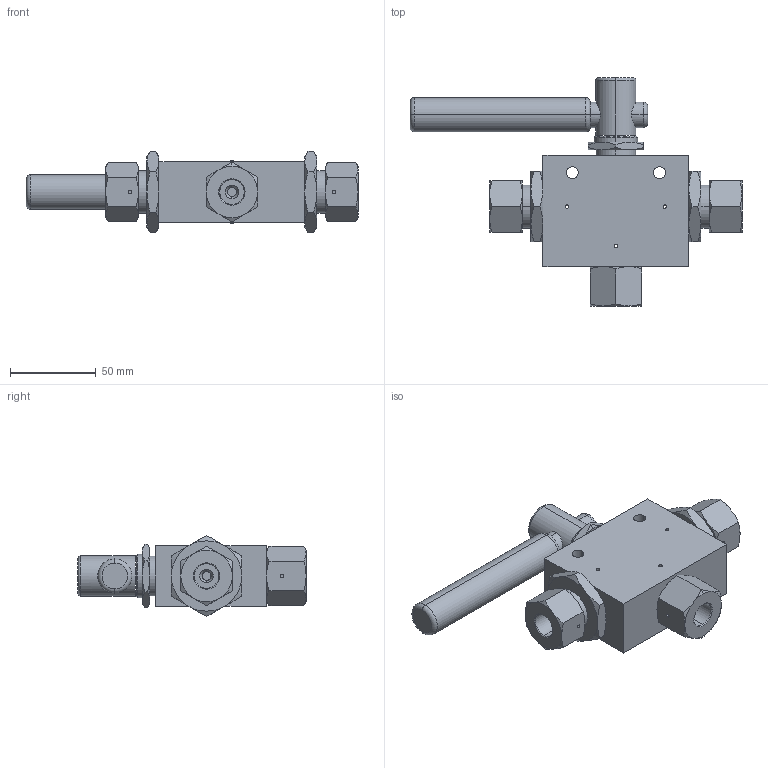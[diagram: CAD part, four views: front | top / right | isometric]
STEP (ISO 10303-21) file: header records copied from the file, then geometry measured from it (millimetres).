
FILE_DESCRIPTION (( 'STEP AP203' ), '1' );
FILE_NAME ('BV2005S06-3-180.STEP', '2022-03-31T10:14:33', ( '' ), ( '' ), 'SwSTEP 2.0', 'SolidWorks 2020', '' );
FILE_SCHEMA (( 'CONFIG_CONTROL_DESIGN' ));
Length unit declared in the file: millimetre
Products named in the file (1): BV2005S06-3-180
Bounding box: 193.5 x 133 x 47.34 mm (x, y, z)
Volume: 309525.8 mm3; surface area: 49681.8 mm2
Topology: 1 solids, 1 shells, 220 faces, 488 edges, 286 vertices
Faces by surface type: cone 94, plane 68, cylinder 50, torus 8
Entity records: 6909 total; most frequent: CARTESIAN_POINT 2129, DIRECTION 974, ORIENTED_EDGE 968, EDGE_CURVE 484, AXIS2_PLACEMENT_3D 423, VERTEX_POINT 286, EDGE_LOOP 256, ADVANCED_FACE 220
